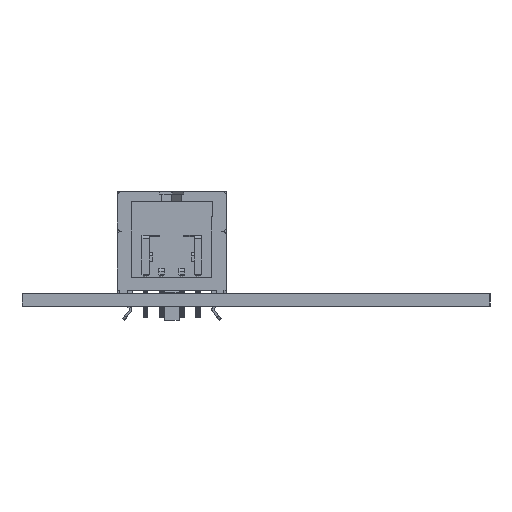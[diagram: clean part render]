
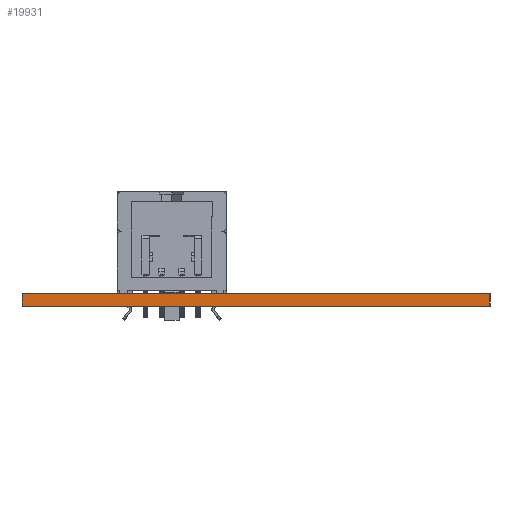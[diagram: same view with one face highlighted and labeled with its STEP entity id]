
A CAD part, left-side view. The second image highlights one B-rep face of the part: STEP entity #19931.
In plain terms, the highlighted planar face has unit normal (-1, 0, 0).
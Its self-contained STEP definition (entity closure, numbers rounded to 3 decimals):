
#19875 = VERTEX_POINT('',#19876);
#19876 = CARTESIAN_POINT('',(-39.999,-30.004,1.6));
#19882 = EDGE_CURVE('',#19883,#19875,#19885,.T.);
#19883 = VERTEX_POINT('',#19884);
#19884 = CARTESIAN_POINT('',(-39.999,-30.004,0.));
#19885 = LINE('',#19886,#19887);
#19886 = CARTESIAN_POINT('',(-39.999,-30.004,0.));
#19887 = VECTOR('',#19888,1.);
#19888 = DIRECTION('',(0.,0.,1.));
#19931 = ADVANCED_FACE('',(#19932),#19957,.T.);
#19932 = FACE_BOUND('',#19933,.T.);
#19933 = EDGE_LOOP('',(#19934,#19935,#19943,#19951));
#19934 = ORIENTED_EDGE('',*,*,#19882,.T.);
#19935 = ORIENTED_EDGE('',*,*,#19936,.T.);
#19936 = EDGE_CURVE('',#19875,#19937,#19939,.T.);
#19937 = VERTEX_POINT('',#19938);
#19938 = CARTESIAN_POINT('',(-39.999,29.996,1.6));
#19939 = LINE('',#19940,#19941);
#19940 = CARTESIAN_POINT('',(-39.999,-30.004,1.6));
#19941 = VECTOR('',#19942,1.);
#19942 = DIRECTION('',(0.,1.,0.));
#19943 = ORIENTED_EDGE('',*,*,#19944,.F.);
#19944 = EDGE_CURVE('',#19945,#19937,#19947,.T.);
#19945 = VERTEX_POINT('',#19946);
#19946 = CARTESIAN_POINT('',(-39.999,29.996,0.));
#19947 = LINE('',#19948,#19949);
#19948 = CARTESIAN_POINT('',(-39.999,29.996,0.));
#19949 = VECTOR('',#19950,1.);
#19950 = DIRECTION('',(0.,0.,1.));
#19951 = ORIENTED_EDGE('',*,*,#19952,.F.);
#19952 = EDGE_CURVE('',#19883,#19945,#19953,.T.);
#19953 = LINE('',#19954,#19955);
#19954 = CARTESIAN_POINT('',(-39.999,-30.004,0.));
#19955 = VECTOR('',#19956,1.);
#19956 = DIRECTION('',(0.,1.,0.));
#19957 = PLANE('',#19958);
#19958 = AXIS2_PLACEMENT_3D('',#19959,#19960,#19961);
#19959 = CARTESIAN_POINT('',(-39.999,-30.004,0.));
#19960 = DIRECTION('',(-1.,0.,0.));
#19961 = DIRECTION('',(0.,1.,0.));
